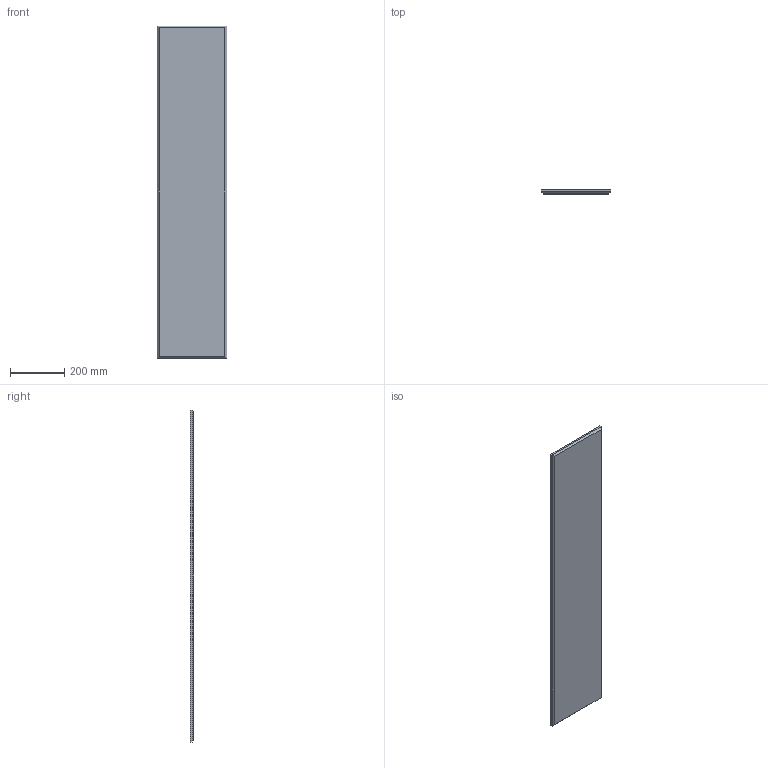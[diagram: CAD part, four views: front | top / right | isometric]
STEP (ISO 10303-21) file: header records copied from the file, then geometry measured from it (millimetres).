
FILE_DESCRIPTION(/* description */ (''),/* implementation_level */ '2;1');
FILE_NAME(/* name */ 'PET PLANQ_Beveled_10x48',/* time_stamp */ '2024-10-31T13:55:30-05:00',/* author */ (''),/* organization */ (''),/* preprocessor_version */ 'ST-DEVELOPER v19.2',/* originating_system */ 'Rhino 8.4',/* authorisation */ '');
FILE_SCHEMA (('CONFIG_CONTROL_DESIGN'));
Length unit declared in the file: inch
Products named in the file (1): Document
Bounding box: 254 x 12.7 x 1219.2 mm (x, y, z)
Volume: 3873833.7 mm3; surface area: 645746.2 mm2
Topology: 1 solids, 1 shells, 10 faces, 20 edges, 12 vertices
Faces by surface type: plane 10
Entity records: 310 total; most frequent: CARTESIAN_POINT 64, ORIENTED_EDGE 40, EDGE_CURVE 20, B_SPLINE_CURVE_WITH_KNOTS 20, DIRECTION 14, VERTEX_POINT 12, AXIS2_PLACEMENT_3D 12, ADVANCED_FACE 10
